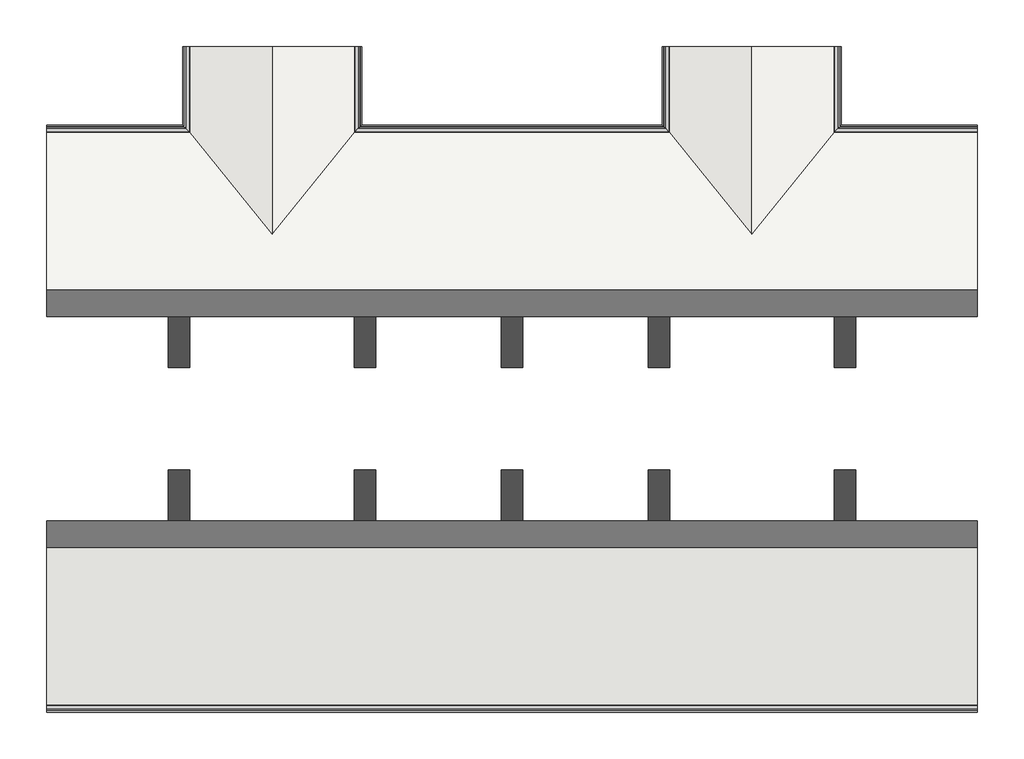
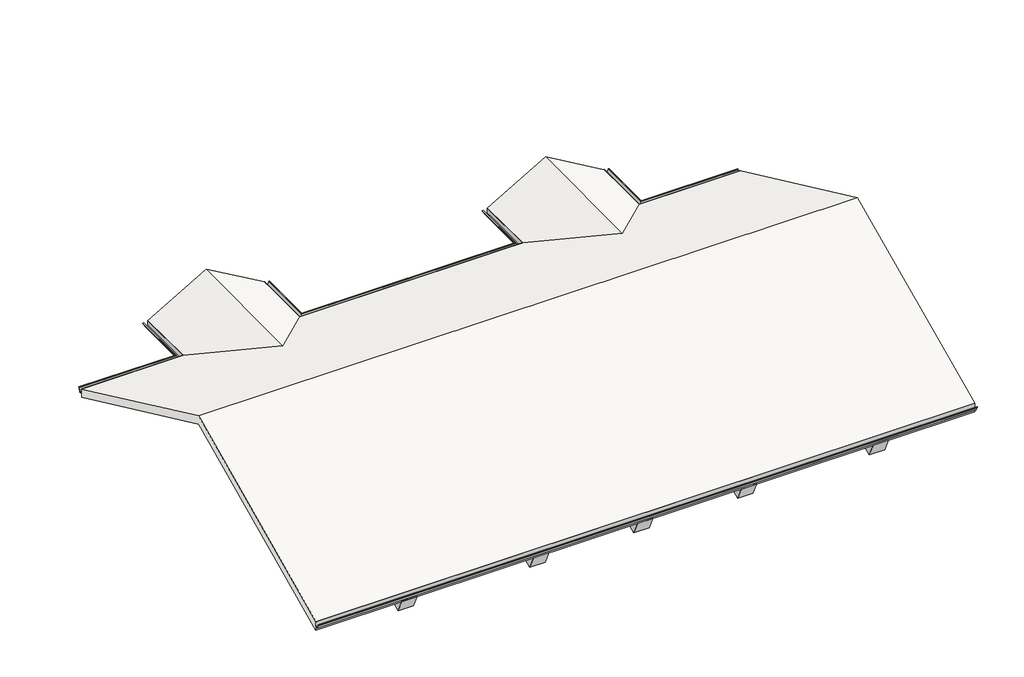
# One storey: 10 beams, 2 pipe segments, 1 roof.
"""IFC4 building model written with IfcOpenShell, lengths in millimetres."""

from ifc_helpers import new_model, si_unit, frame, origin, place, context, project, spatial, polyline, outline, extrude, faceted_brep, element, save

model = new_model("IFC4")

# Units and contexts
model_context = context("Model", 3, world=origin())
ifc_project = project(units=[si_unit("LENGTHUNIT", "METRE", prefix="MILLI")], contexts=[model_context])

# Site, building, storey
site = spatial("IfcSite", under=ifc_project)
building = spatial("IfcBuilding", under=site)
storey = spatial("IfcBuildingStorey", under=building, Name="标高 2", Elevation=4000.0)

# Beams
placement = place(None, origin())
element("IfcBeam", 1, ObjectType="混凝土 - 矩形梁 : 300 x 300mm", at=placement, inside=storey, context=model_context, shape_type="Brep", body=[
    faceted_brep([(4470.4685806, -4246.6942718, 4000.1081218), (4470.4685806, -4119.9087933, 3728.2157857), (4770.4685806, -4119.9087933, 3728.2157857), (4770.4685806, -4246.6942718, 4000.1081218), (4770.4685806, -246.9261397, 5865.2306326), (4470.4685806, -246.9261397, 5865.2306326), (4770.4685806, -120.1406612, 5593.3382965), (4770.4685806, -246.9261397, 5534.2172569), (4470.4685806, -120.1406612, 5593.3382965), (4470.4685806, -246.9261397, 5534.2172569)], [[[0, 1, 2, 3]], [[4, 5, 0, 3]], [[6, 4, 3, 2, 7]], [[8, 6, 7, 2, 1, 9]], [[5, 8, 9, 1, 0]], [[5, 4, 6, 8]]]),
])
element("IfcBeam", 2, ObjectType="混凝土 - 矩形梁 : 300 x 300mm", at=placement, inside=storey, context=model_context, shape_type="SweptSolid", body=[
    extrude(outline(polyline([(3752.8419924, 4000.1081218), (3626.0565139, 3728.2157857), (-246.9261397, 5534.2172569), (-120.1406612, 5593.3382965), (-246.9261397, 5865.2306326), (3752.8419924, 4000.1081218)])), frame((4470.4685806, 0.0, 0.0), z_axis=(1.0, 0.0, 0.0), x_axis=(0.0, 1.0, 0.0)), (0.0, 0.0, 1.0), 300.0),
])
element("IfcBeam", 3, ObjectType="混凝土 - 矩形梁 : 300 x 300mm", at=placement, inside=storey, context=model_context, shape_type="Brep", body=[
    faceted_brep([(1870.4685806, -4246.6942718, 4000.1081218), (1870.4685806, -4119.9087933, 3728.2157857), (2170.4685806, -4119.9087933, 3728.2157857), (2170.4685806, -4246.6942718, 4000.1081218), (2170.4685806, -246.9261397, 5865.2306326), (1870.4685806, -246.9261397, 5865.2306326), (2170.4685806, -120.1406612, 5593.3382965), (2170.4685806, -246.9261397, 5534.2172569), (1870.4685806, -120.1406612, 5593.3382965), (1870.4685806, -246.9261397, 5534.2172569)], [[[0, 1, 2, 3]], [[4, 5, 0, 3]], [[6, 4, 3, 2, 7]], [[8, 6, 7, 2, 1, 9]], [[5, 8, 9, 1, 0]], [[5, 4, 6, 8]]]),
])
element("IfcBeam", 4, ObjectType="混凝土 - 矩形梁 : 300 x 300mm", at=placement, inside=storey, context=model_context, shape_type="SweptSolid", body=[
    extrude(outline(polyline([(3752.8419924, 4000.1081218), (3626.0565139, 3728.2157857), (-246.9261397, 5534.2172569), (-120.1406612, 5593.3382965), (-246.9261397, 5865.2306326), (3752.8419924, 4000.1081218)])), frame((1870.4685806, 0.0, 0.0), z_axis=(1.0, 0.0, 0.0), x_axis=(0.0, 1.0, 0.0)), (0.0, 0.0, 1.0), 300.0),
])
element("IfcBeam", 5, ObjectType="混凝土 - 矩形梁 : 300 x 300mm", at=placement, inside=storey, context=model_context, shape_type="Brep", body=[
    faceted_brep([(-179.5314194, -4246.6942718, 4000.1081218), (-179.5314194, -4119.9087933, 3728.2157857), (120.4685806, -4119.9087933, 3728.2157857), (120.4685806, -4246.6942718, 4000.1081218), (120.4685806, -246.9261397, 5865.2306326), (-179.5314194, -246.9261397, 5865.2306326), (120.4685806, -120.1406612, 5593.3382965), (120.4685806, -246.9261397, 5534.2172569), (-179.5314194, -120.1406612, 5593.3382965), (-179.5314194, -246.9261397, 5534.2172569)], [[[0, 1, 2, 3]], [[4, 5, 0, 3]], [[6, 4, 3, 2, 7]], [[8, 6, 7, 2, 1, 9]], [[5, 8, 9, 1, 0]], [[5, 4, 6, 8]]]),
])
element("IfcBeam", 6, ObjectType="混凝土 - 矩形梁 : 300 x 300mm", at=placement, inside=storey, context=model_context, shape_type="SweptSolid", body=[
    extrude(outline(polyline([(3752.8419924, 4000.1081218), (3626.0565139, 3728.2157857), (-246.9261397, 5534.2172569), (-120.1406612, 5593.3382965), (-246.9261397, 5865.2306326), (3752.8419924, 4000.1081218)])), frame((-179.5314194, 0.0, 0.0), z_axis=(1.0, 0.0, 0.0), x_axis=(0.0, 1.0, 0.0)), (0.0, 0.0, 1.0), 300.0),
])
element("IfcBeam", 7, ObjectType="混凝土 - 矩形梁 : 300 x 300mm", at=placement, inside=storey, context=model_context, shape_type="Brep", body=[
    faceted_brep([(-2229.5314194, -4246.6942718, 4000.1081218), (-2229.5314194, -4119.9087933, 3728.2157857), (-1929.5314194, -4119.9087933, 3728.2157857), (-1929.5314194, -4246.6942718, 4000.1081218), (-1929.5314194, -246.9261397, 5865.2306326), (-2229.5314194, -246.9261397, 5865.2306326), (-1929.5314194, -120.1406612, 5593.3382965), (-1929.5314194, -246.9261397, 5534.2172569), (-2229.5314194, -120.1406612, 5593.3382965), (-2229.5314194, -246.9261397, 5534.2172569)], [[[0, 1, 2, 3]], [[4, 5, 0, 3]], [[6, 4, 3, 2, 7]], [[8, 6, 7, 2, 1, 9]], [[5, 8, 9, 1, 0]], [[5, 4, 6, 8]]]),
])
element("IfcBeam", 8, ObjectType="混凝土 - 矩形梁 : 300 x 300mm", at=placement, inside=storey, context=model_context, shape_type="SweptSolid", body=[
    extrude(outline(polyline([(3752.8419924, 4000.1081218), (3626.0565139, 3728.2157857), (-246.9261397, 5534.2172569), (-120.1406612, 5593.3382965), (-246.9261397, 5865.2306326), (3752.8419924, 4000.1081218)])), frame((-2229.5314194, 0.0, 0.0), z_axis=(1.0, 0.0, 0.0), x_axis=(0.0, 1.0, 0.0)), (0.0, 0.0, 1.0), 300.0),
])
element("IfcBeam", 9, ObjectType="混凝土 - 矩形梁 : 300 x 300mm", at=placement, inside=storey, context=model_context, shape_type="Brep", body=[
    faceted_brep([(-4829.5314194, -4246.6942718, 4000.1081218), (-4829.5314194, -4119.9087933, 3728.2157857), (-4529.5314194, -4119.9087933, 3728.2157857), (-4529.5314194, -4246.6942718, 4000.1081218), (-4529.5314194, -246.9261397, 5865.2306326), (-4829.5314194, -246.9261397, 5865.2306326), (-4529.5314194, -120.1406612, 5593.3382965), (-4529.5314194, -246.9261397, 5534.2172569), (-4829.5314194, -120.1406612, 5593.3382965), (-4829.5314194, -246.9261397, 5534.2172569)], [[[0, 1, 2, 3]], [[4, 5, 0, 3]], [[6, 4, 3, 2, 7]], [[8, 6, 7, 2, 1, 9]], [[5, 8, 9, 1, 0]], [[5, 4, 6, 8]]]),
])
element("IfcBeam", 10, ObjectType="混凝土 - 矩形梁 : 300 x 300mm", at=placement, inside=storey, context=model_context, shape_type="SweptSolid", body=[
    extrude(outline(polyline([(3752.8419924, 4000.1081218), (3626.0565139, 3728.2157857), (-246.9261397, 5534.2172569), (-120.1406612, 5593.3382965), (-246.9261397, 5865.2306326), (3752.8419924, 4000.1081218)])), frame((-4829.5314194, 0.0, 0.0), z_axis=(1.0, 0.0, 0.0), x_axis=(0.0, 1.0, 0.0)), (0.0, 0.0, 1.0), 300.0),
])

# Pipe segments
element("IfcPipeSegment", 11, ObjectType="檐槽", at=placement, inside=storey, context=model_context, shape_type="Brep", body=[
    faceted_brep([(-6529.5314194, -4249.9261397, 4176.540467), (-6529.5314194, -4246.9261397, 4176.540467), (-6529.5314194, -4246.9261397, 4076.540467), (-6529.5314194, -4304.9261397, 4076.540467), (-6529.5314194, -4330.7680263, 4147.540467), (-6529.5314194, -4346.9261397, 4147.540467), (-6529.5314194, -4346.9261397, 4159.540467), (-6529.5314194, -4331.9261397, 4159.540467), (-6529.5314194, -4331.9261397, 4156.540467), (-6529.5314194, -4343.9261397, 4156.540467), (-6529.5314194, -4343.9261397, 4150.540467), (-6529.5314194, -4328.6674037, 4150.540467), (-6529.5314194, -4302.8255171, 4079.540467), (-6529.5314194, -4249.9261397, 4079.540467), (6470.4685806, -4249.9261397, 4176.540467), (6470.4685806, -4249.9261397, 4079.540467), (6470.4685806, -4302.8255171, 4079.540467), (6470.4685806, -4328.6674037, 4150.540467), (6470.4685806, -4343.9261397, 4150.540467), (6470.4685806, -4343.9261397, 4156.540467), (6470.4685806, -4331.9261397, 4156.540467), (6470.4685806, -4331.9261397, 4159.540467), (6470.4685806, -4346.9261397, 4159.540467), (6470.4685806, -4346.9261397, 4147.540467), (6470.4685806, -4330.7680263, 4147.540467), (6470.4685806, -4304.9261397, 4076.540467), (6470.4685806, -4246.9261397, 4076.540467), (6470.4685806, -4246.9261397, 4176.540467)], [[[0, 1, 2, 3, 4, 5, 6, 7, 8, 9, 10, 11, 12, 13]], [[14, 15, 16, 17, 18, 19, 20, 21, 22, 23, 24, 25, 26, 27]], [[1, 0, 14, 27]], [[2, 1, 27, 26]], [[3, 2, 26, 25]], [[4, 3, 25, 24]], [[5, 4, 24, 23]], [[6, 5, 23, 22]], [[7, 6, 22, 21]], [[8, 7, 21, 20]], [[9, 8, 20, 19]], [[10, 9, 19, 18]], [[11, 10, 18, 17]], [[12, 11, 17, 16]], [[13, 12, 16, 15]], [[0, 13, 15, 14]]]),
    faceted_brep([(6470.4685806, 3756.0738603, 4176.540467), (6470.4685806, 3753.0738603, 4176.540467), (6470.4685806, 3753.0738603, 4076.540467), (6470.4685806, 3811.0738603, 4076.540467), (6470.4685806, 3836.9157469, 4147.540467), (6470.4685806, 3853.0738603, 4147.540467), (6470.4685806, 3853.0738603, 4159.540467), (6470.4685806, 3838.0738603, 4159.540467), (6470.4685806, 3838.0738603, 4156.540467), (6470.4685806, 3850.0738603, 4156.540467), (6470.4685806, 3850.0738603, 4150.540467), (6470.4685806, 3834.8151243, 4150.540467), (6470.4685806, 3808.9732377, 4079.540467), (6470.4685806, 3756.0738603, 4079.540467), (4473.4685806, 3756.0738603, 4176.540467), (4470.4685806, 3753.0738603, 4176.540467), (4470.4685806, 3753.0738603, 4076.540467), (4528.4685806, 3811.0738603, 4076.540467), (4554.3104672, 3836.9157469, 4147.540467), (4570.4685806, 3853.0738603, 4147.540467), (4570.4685806, 3853.0738603, 4159.540467), (4555.4685806, 3838.0738603, 4159.540467), (4555.4685806, 3838.0738603, 4156.540467), (4567.4685806, 3850.0738603, 4156.540467), (4567.4685806, 3850.0738603, 4150.540467), (4552.2098446, 3834.8151243, 4150.540467), (4526.367958, 3808.9732377, 4079.540467), (4473.4685806, 3756.0738603, 4079.540467), (4473.4685806, 4953.0738603, 4176.540467), (4473.4685806, 4953.0738603, 4079.540467), (4526.367958, 4953.0738603, 4079.540467), (4552.2098446, 4953.0738603, 4150.540467), (4567.4685806, 4953.0738603, 4150.540467), (4567.4685806, 4953.0738603, 4156.540467), (4555.4685806, 4953.0738603, 4156.540467), (4555.4685806, 4953.0738603, 4159.540467), (4570.4685806, 4953.0738603, 4159.540467), (4570.4685806, 4953.0738603, 4147.540467), (4554.3104672, 4953.0738603, 4147.540467), (4528.4685806, 4953.0738603, 4076.540467), (4470.4685806, 4953.0738603, 4076.540467), (4470.4685806, 4953.0738603, 4176.540467)], [[[0, 1, 2, 3, 4, 5, 6, 7, 8, 9, 10, 11, 12, 13]], [[1, 0, 14, 15]], [[2, 1, 15, 16]], [[3, 2, 16, 17]], [[4, 3, 17, 18]], [[5, 4, 18, 19]], [[6, 5, 19, 20]], [[7, 6, 20, 21]], [[8, 7, 21, 22]], [[9, 8, 22, 23]], [[10, 9, 23, 24]], [[11, 10, 24, 25]], [[12, 11, 25, 26]], [[13, 12, 26, 27]], [[0, 13, 27, 14]], [[28, 29, 30, 31, 32, 33, 34, 35, 36, 37, 38, 39, 40, 41]], [[15, 14, 28, 41]], [[16, 15, 41, 40]], [[17, 16, 40, 39]], [[18, 17, 39, 38]], [[19, 18, 38, 37]], [[20, 19, 37, 36]], [[21, 20, 36, 35]], [[22, 21, 35, 34]], [[23, 22, 34, 33]], [[24, 23, 33, 32]], [[25, 24, 32, 31]], [[26, 25, 31, 30]], [[27, 26, 30, 29]], [[14, 27, 29, 28]]]),
    faceted_brep([(2167.4685806, 4953.0738603, 4176.540467), (2170.4685806, 4953.0738603, 4176.540467), (2170.4685806, 4953.0738603, 4076.540467), (2112.4685806, 4953.0738603, 4076.540467), (2086.626694, 4953.0738603, 4147.540467), (2070.4685806, 4953.0738603, 4147.540467), (2070.4685806, 4953.0738603, 4159.540467), (2085.4685806, 4953.0738603, 4159.540467), (2085.4685806, 4953.0738603, 4156.540467), (2073.4685806, 4953.0738603, 4156.540467), (2073.4685806, 4953.0738603, 4150.540467), (2088.7273166, 4953.0738603, 4150.540467), (2114.5692032, 4953.0738603, 4079.540467), (2167.4685806, 4953.0738603, 4079.540467), (2167.4685806, 3756.0738603, 4176.540467), (2170.4685806, 3753.0738603, 4176.540467), (2170.4685806, 3753.0738603, 4076.540467), (2112.4685806, 3811.0738603, 4076.540467), (2086.626694, 3836.9157469, 4147.540467), (2070.4685806, 3853.0738603, 4147.540467), (2070.4685806, 3853.0738603, 4159.540467), (2085.4685806, 3838.0738603, 4159.540467), (2085.4685806, 3838.0738603, 4156.540467), (2073.4685806, 3850.0738603, 4156.540467), (2073.4685806, 3850.0738603, 4150.540467), (2088.7273166, 3834.8151243, 4150.540467), (2114.5692032, 3808.9732377, 4079.540467), (2167.4685806, 3756.0738603, 4079.540467), (-2226.5314194, 3756.0738603, 4176.540467), (-2229.5314194, 3753.0738603, 4176.540467), (-2229.5314194, 3753.0738603, 4076.540467), (-2171.5314194, 3811.0738603, 4076.540467), (-2145.6895328, 3836.9157469, 4147.540467), (-2129.5314194, 3853.0738603, 4147.540467), (-2129.5314194, 3853.0738603, 4159.540467), (-2144.5314194, 3838.0738603, 4159.540467), (-2144.5314194, 3838.0738603, 4156.540467), (-2132.5314194, 3850.0738603, 4156.540467), (-2132.5314194, 3850.0738603, 4150.540467), (-2147.7901554, 3834.8151243, 4150.540467), (-2173.632042, 3808.9732377, 4079.540467), (-2226.5314194, 3756.0738603, 4079.540467), (-2226.5314194, 4953.0738603, 4176.540467), (-2226.5314194, 4953.0738603, 4079.540467), (-2173.632042, 4953.0738603, 4079.540467), (-2147.7901554, 4953.0738603, 4150.540467), (-2132.5314194, 4953.0738603, 4150.540467), (-2132.5314194, 4953.0738603, 4156.540467), (-2144.5314194, 4953.0738603, 4156.540467), (-2144.5314194, 4953.0738603, 4159.540467), (-2129.5314194, 4953.0738603, 4159.540467), (-2129.5314194, 4953.0738603, 4147.540467), (-2145.6895328, 4953.0738603, 4147.540467), (-2171.5314194, 4953.0738603, 4076.540467), (-2229.5314194, 4953.0738603, 4076.540467), (-2229.5314194, 4953.0738603, 4176.540467)], [[[0, 1, 2, 3, 4, 5, 6, 7, 8, 9, 10, 11, 12, 13]], [[1, 0, 14, 15]], [[2, 1, 15, 16]], [[3, 2, 16, 17]], [[4, 3, 17, 18]], [[5, 4, 18, 19]], [[6, 5, 19, 20]], [[7, 6, 20, 21]], [[8, 7, 21, 22]], [[9, 8, 22, 23]], [[10, 9, 23, 24]], [[11, 10, 24, 25]], [[12, 11, 25, 26]], [[13, 12, 26, 27]], [[0, 13, 27, 14]], [[15, 14, 28, 29]], [[16, 15, 29, 30]], [[17, 16, 30, 31]], [[18, 17, 31, 32]], [[19, 18, 32, 33]], [[20, 19, 33, 34]], [[21, 20, 34, 35]], [[22, 21, 35, 36]], [[23, 22, 36, 37]], [[24, 23, 37, 38]], [[25, 24, 38, 39]], [[26, 25, 39, 40]], [[27, 26, 40, 41]], [[14, 27, 41, 28]], [[42, 43, 44, 45, 46, 47, 48, 49, 50, 51, 52, 53, 54, 55]], [[29, 28, 42, 55]], [[30, 29, 55, 54]], [[31, 30, 54, 53]], [[32, 31, 53, 52]], [[33, 32, 52, 51]], [[34, 33, 51, 50]], [[35, 34, 50, 49]], [[36, 35, 49, 48]], [[37, 36, 48, 47]], [[38, 37, 47, 46]], [[39, 38, 46, 45]], [[40, 39, 45, 44]], [[41, 40, 44, 43]], [[28, 41, 43, 42]]]),
    faceted_brep([(-4532.5314194, 4953.0738603, 4176.540467), (-4529.5314194, 4953.0738603, 4176.540467), (-4529.5314194, 4953.0738603, 4076.540467), (-4587.5314194, 4953.0738603, 4076.540467), (-4613.373306, 4953.0738603, 4147.540467), (-4629.5314194, 4953.0738603, 4147.540467), (-4629.5314194, 4953.0738603, 4159.540467), (-4614.5314194, 4953.0738603, 4159.540467), (-4614.5314194, 4953.0738603, 4156.540467), (-4626.5314194, 4953.0738603, 4156.540467), (-4626.5314194, 4953.0738603, 4150.540467), (-4611.2726834, 4953.0738603, 4150.540467), (-4585.4307968, 4953.0738603, 4079.540467), (-4532.5314194, 4953.0738603, 4079.540467), (-4532.5314194, 3756.0738603, 4176.540467), (-4532.5314194, 3756.0738603, 4079.540467), (-4585.4307968, 3808.9732377, 4079.540467), (-4611.2726834, 3834.8151243, 4150.540467), (-4626.5314194, 3850.0738603, 4150.540467), (-4626.5314194, 3850.0738603, 4156.540467), (-4614.5314194, 3838.0738603, 4156.540467), (-4614.5314194, 3838.0738603, 4159.540467), (-4629.5314194, 3853.0738603, 4159.540467), (-4629.5314194, 3853.0738603, 4147.540467), (-4613.373306, 3836.9157469, 4147.540467), (-4587.5314194, 3811.0738603, 4076.540467), (-4529.5314194, 3753.0738603, 4076.540467), (-4529.5314194, 3753.0738603, 4176.540467)], [[[0, 1, 2, 3, 4, 5, 6, 7, 8, 9, 10, 11, 12, 13]], [[14, 15, 16, 17, 18, 19, 20, 21, 22, 23, 24, 25, 26, 27]], [[1, 0, 14, 27]], [[2, 1, 27, 26]], [[3, 2, 26, 25]], [[4, 3, 25, 24]], [[5, 4, 24, 23]], [[6, 5, 23, 22]], [[7, 6, 22, 21]], [[8, 7, 21, 20]], [[9, 8, 20, 19]], [[10, 9, 19, 18]], [[11, 10, 18, 17]], [[12, 11, 17, 16]], [[13, 12, 16, 15]], [[0, 13, 15, 14]]]),
])
element("IfcPipeSegment", 12, ObjectType="檐槽", at=placement, inside=storey, context=model_context, shape_type="Brep", body=[
    faceted_brep([(-4532.5314194, 3756.0738603, 4176.540467), (-4529.5314194, 3753.0738603, 4176.540467), (-4529.5314194, 3753.0738603, 4076.540467), (-4587.5314194, 3811.0738603, 4076.540467), (-4613.373306, 3836.9157469, 4147.540467), (-4629.5314194, 3853.0738603, 4147.540467), (-4629.5314194, 3853.0738603, 4159.540467), (-4614.5314194, 3838.0738603, 4159.540467), (-4614.5314194, 3838.0738603, 4156.540467), (-4626.5314194, 3850.0738603, 4156.540467), (-4626.5314194, 3850.0738603, 4150.540467), (-4611.2726834, 3834.8151243, 4150.540467), (-4585.4307968, 3808.9732377, 4079.540467), (-4532.5314194, 3756.0738603, 4079.540467), (-6529.5314194, 3756.0738603, 4176.540467), (-6529.5314194, 3756.0738603, 4079.540467), (-6529.5314194, 3808.9732377, 4079.540467), (-6529.5314194, 3834.8151243, 4150.540467), (-6529.5314194, 3850.0738603, 4150.540467), (-6529.5314194, 3850.0738603, 4156.540467), (-6529.5314194, 3838.0738603, 4156.540467), (-6529.5314194, 3838.0738603, 4159.540467), (-6529.5314194, 3853.0738603, 4159.540467), (-6529.5314194, 3853.0738603, 4147.540467), (-6529.5314194, 3836.9157469, 4147.540467), (-6529.5314194, 3811.0738603, 4076.540467), (-6529.5314194, 3753.0738603, 4076.540467), (-6529.5314194, 3753.0738603, 4176.540467)], [[[0, 1, 2, 3, 4, 5, 6, 7, 8, 9, 10, 11, 12, 13]], [[14, 15, 16, 17, 18, 19, 20, 21, 22, 23, 24, 25, 26, 27]], [[1, 0, 14, 27]], [[2, 1, 27, 26]], [[3, 2, 26, 25]], [[4, 3, 25, 24]], [[5, 4, 24, 23]], [[6, 5, 23, 22]], [[7, 6, 22, 21]], [[8, 7, 21, 20]], [[9, 8, 20, 19]], [[10, 9, 19, 18]], [[11, 10, 18, 17]], [[12, 11, 17, 16]], [[13, 12, 16, 15]], [[0, 13, 15, 14]]]),
])

# Roof
element("IfcRoof", 13, ObjectType="屋顶", at=placement, inside=storey, context=model_context, shape_type="Brep", body=[
    faceted_brep([(6470.4685806, -4246.9261397, 4000.0), (-6529.5314194, -4246.9261397, 4000.0), (-6529.5314194, -246.9261397, 5865.2306326), (6470.4685806, -246.9261397, 5865.2306326), (4456.2456391, 3753.0738603, 4000.0), (4470.4685806, 3753.0738603, 4000.0), (6470.4685806, 3753.0738603, 4000.0), (-6529.5314194, 3753.0738603, 4000.0), (-4529.5314194, 3753.0738603, 4000.0), (-4515.3084779, 3753.0738603, 4000.0), (-3379.5314194, 2346.8323393, 4655.7411905), (-2243.7543609, 3753.0738603, 4000.0), (-2229.5314194, 3753.0738603, 4000.0), (2170.4685806, 3753.0738603, 4000.0), (2184.6915221, 3753.0738603, 4000.0), (3320.4685806, 2346.8323393, 4655.7411905), (4456.2456391, 4953.0738603, 4000.0), (3320.4685806, 4953.0738603, 4655.7411905), (2184.6915221, 4953.0738603, 4000.0), (-3379.5314194, 4953.0738603, 4655.7411905), (-2243.7543609, 4953.0738603, 4000.0), (-4515.3084779, 4953.0738603, 4000.0), (6470.4685806, -4246.9261397, 4176.540467), (6470.4685806, -246.9261397, 6041.7710997), (-6529.5314194, -246.9261397, 6041.7710997), (-6529.5314194, -4246.9261397, 4176.540467), (6470.4685806, 3753.0738603, 4176.540467), (4470.4685806, 3753.0738603, 4176.540467), (3320.4685806, 2329.2224653, 4840.4932766), (2170.4685806, 3753.0738603, 4176.540467), (-2229.5314194, 3753.0738603, 4176.540467), (-3379.5314194, 2329.2224653, 4840.4932766), (-4529.5314194, 3753.0738603, 4176.540467), (-6529.5314194, 3753.0738603, 4176.540467), (4470.4685806, 4953.0738603, 4176.540467), (3320.4685806, 4953.0738603, 4840.4932766), (2170.4685806, 4953.0738603, 4176.540467), (-2229.5314194, 4953.0738603, 4176.540467), (-3379.5314194, 4953.0738603, 4840.4932766), (-4529.5314194, 4953.0738603, 4176.540467), (4470.4685806, 4953.0738603, 4000.0), (2170.4685806, 4953.0738603, 4000.0), (-2229.5314194, 4953.0738603, 4000.0), (-4529.5314194, 4953.0738603, 4000.0)], [[[0, 1, 2, 3]], [[4, 5, 6, 3, 2, 7, 8, 9, 10, 11, 12, 13, 14, 15]], [[16, 4, 15, 17]], [[18, 17, 15, 14]], [[11, 10, 19, 20]], [[9, 21, 19, 10]], [[22, 23, 24, 25]], [[26, 27, 28, 29, 30, 31, 32, 33, 24, 23]], [[27, 34, 35, 28]], [[36, 29, 28, 35]], [[30, 37, 38, 31]], [[39, 32, 31, 38]], [[5, 27, 26, 6]], [[40, 34, 27, 5]], [[13, 29, 36, 41]], [[12, 30, 29, 13]], [[42, 37, 30, 12]], [[8, 32, 39, 43]], [[7, 33, 32, 8]], [[0, 22, 25, 1]], [[40, 5, 4, 16]], [[42, 12, 11, 20]], [[13, 41, 18, 14]], [[8, 43, 21, 9]], [[26, 23, 22, 0, 3, 6]], [[36, 35, 34, 40, 16, 17, 18, 41]], [[39, 38, 37, 42, 20, 19, 21, 43]], [[25, 24, 33, 7, 2, 1]]]),
])

save(model, "model.ifc")
